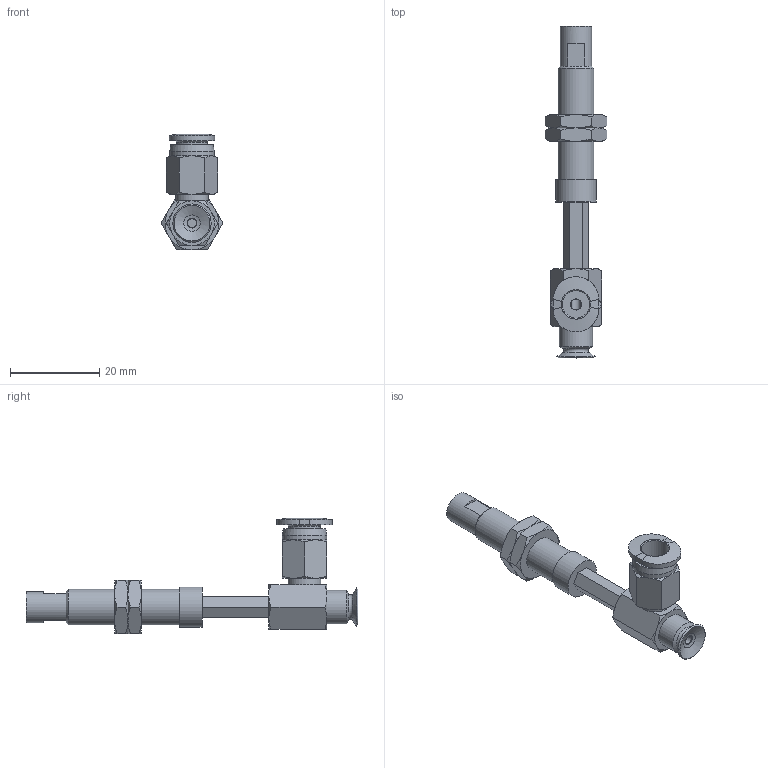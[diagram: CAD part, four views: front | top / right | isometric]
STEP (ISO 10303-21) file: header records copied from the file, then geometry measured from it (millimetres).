
FILE_DESCRIPTION(('STEP AP203'),'1');
FILE_NAME('-O.stp','2025-04-10T03:19:13',(' '),(' '),'Spatial InterOp 3D',' ',' ');
FILE_SCHEMA(('CONFIG_CONTROL_DESIGN'));
Length unit declared in the file: millimetre
Products named in the file (7): BNABPFYH-8A-15-※-O; CONNECTOR-H-8A-15; Nut-8A-15-h; NAPFTH-8A-15-FBODY; NAPFTH-8A-15-MBODY; BPFG-8A-※; PC-C_06-M5
Assembly tree (7 placements, depth 2):
  BNABPFYH-8A-15-※-O
    CONNECTOR-H-8A-15
    Nut-8A-15-h  x2
    NAPFTH-8A-15-FBODY
    NAPFTH-8A-15-MBODY
    BPFG-8A-※
    PC-C_06-M5
Bounding box: 13.86 x 74.5 x 25.98 mm (x, y, z)
Volume: 3824.5 mm3; surface area: 5833.9 mm2
Topology: 6 solids, 9 shells, 190 faces, 404 edges, 245 vertices
Faces by surface type: plane 79, cone 67, cylinder 24, torus 12, bspline 5, revolution 3
Full cylindrical faces by diameter (mm): 2 x2, 4 x4, 4.134 x2, 5 x2, 6 x2, 7 x2, 7.188 x2, 7.4 x1, 7.5 x1, 8 x1, 8.2 x1, 9 x1, 10 x1
Entity records: 4979 total; most frequent: CARTESIAN_POINT 1401, DIRECTION 663, ORIENTED_EDGE 586, EDGE_CURVE 295, AXIS2_PLACEMENT_3D 283, EDGE_LOOP 244, VERTEX_POINT 207, FACE_OUTER_BOUND 141
